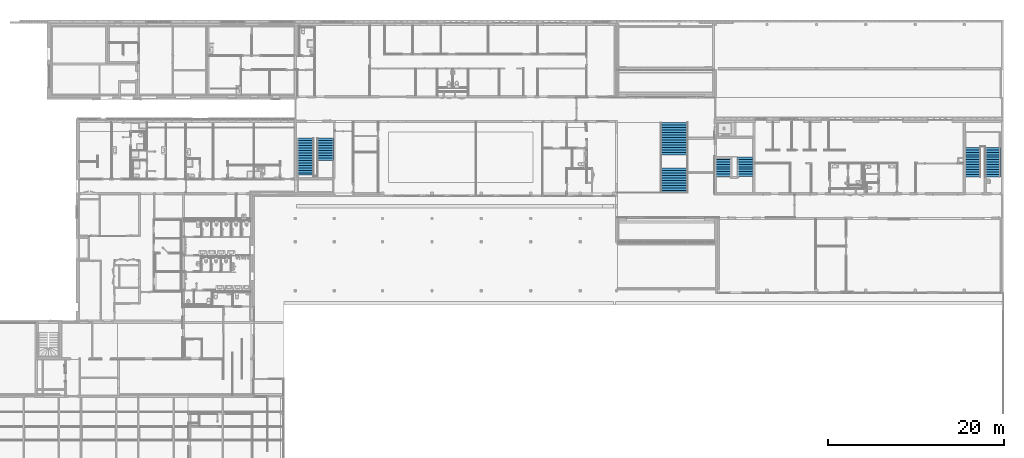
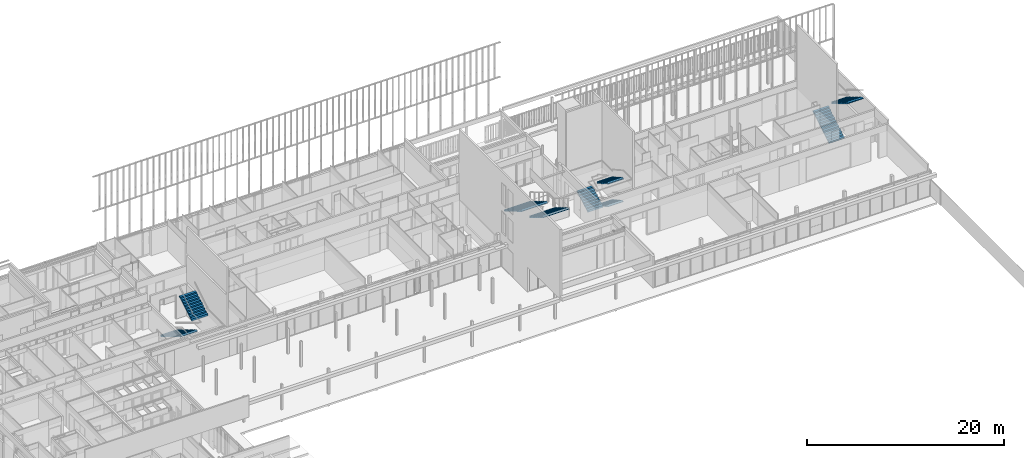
# One storey, part 228 of 240: 9 stair flights, 4 elements without a shape of their own.
"""IFC2X3 building model written with IfcOpenShell, lengths in centimetres."""

from ifc_helpers import new_model, entity, si_unit, converted_unit, derived_unit, direction, frame, origin, place, context, subcontext, project, spatial, faceted_brep, material, element, aggregate, save


model = new_model("IFC2X3")

# Units and contexts
model_context = context("Model", 3, precision=0.001, world=origin(), true_north=direction((6.12303176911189e-17, 1.0)))
body_context = subcontext(model_context, "Body", "Model", "MODEL_VIEW")
ifc_project = project(units=[si_unit("LENGTHUNIT", "METRE", prefix="CENTI"), si_unit("AREAUNIT", "SQUARE_METRE"), si_unit("VOLUMEUNIT", "CUBIC_METRE"), converted_unit("PLANEANGLEUNIT", "DEGREE", entity("IfcRatioMeasure", 0.0174532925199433), si_unit("PLANEANGLEUNIT", "RADIAN"), dimensions=[0, 0, 0, 0, 0, 0, 0]), si_unit("MASSUNIT", "GRAM", prefix="KILO"), derived_unit("MASSDENSITYUNIT", [(si_unit("MASSUNIT", "GRAM", prefix="KILO"), 1), (si_unit("LENGTHUNIT", "METRE"), -3)]), si_unit("TIMEUNIT", "SECOND"), si_unit("FREQUENCYUNIT", "HERTZ"), si_unit("THERMODYNAMICTEMPERATUREUNIT", "DEGREE_CELSIUS"), derived_unit("THERMALTRANSMITTANCEUNIT", [(si_unit("MASSUNIT", "GRAM", prefix="KILO"), 1), (si_unit("THERMODYNAMICTEMPERATUREUNIT", "KELVIN"), -1), (si_unit("TIMEUNIT", "SECOND"), -3)]), derived_unit("VOLUMETRICFLOWRATEUNIT", [(si_unit("LENGTHUNIT", "METRE"), 3), (si_unit("TIMEUNIT", "SECOND"), -1)]), si_unit("ELECTRICCURRENTUNIT", "AMPERE"), si_unit("ELECTRICVOLTAGEUNIT", "VOLT"), si_unit("POWERUNIT", "WATT"), si_unit("FORCEUNIT", "NEWTON", prefix="KILO"), si_unit("ILLUMINANCEUNIT", "LUX"), si_unit("LUMINOUSFLUXUNIT", "LUMEN"), si_unit("LUMINOUSINTENSITYUNIT", "CANDELA"), derived_unit("USERDEFINED", [(si_unit("MASSUNIT", "GRAM", prefix="KILO"), -1), (si_unit("LENGTHUNIT", "METRE"), -2), (si_unit("TIMEUNIT", "SECOND"), 3), (si_unit("LUMINOUSFLUXUNIT", "LUMEN"), 1)]), derived_unit("LINEARVELOCITYUNIT", [(si_unit("LENGTHUNIT", "METRE"), 1), (si_unit("TIMEUNIT", "SECOND"), -1)]), si_unit("PRESSUREUNIT", "PASCAL"), derived_unit("USERDEFINED", [(si_unit("LENGTHUNIT", "METRE"), -2), (si_unit("MASSUNIT", "GRAM", prefix="KILO"), 1), (si_unit("TIMEUNIT", "SECOND"), -2)])], contexts=[model_context])

# Site, building, storey
site_placement = place(None, frame((-2781.94577612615, 7442.24238424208, 0.0)))
site = spatial("IfcSite", under=ifc_project, at=site_placement, Name="Default", CompositionType="ELEMENT")
building_placement = place(site_placement, origin())
building = spatial("IfcBuilding", under=site, at=building_placement, CompositionType="ELEMENT")
storey_placement = place(building_placement, origin())
storey = spatial("IfcBuildingStorey", under=building, at=storey_placement, Name="N00 - COO", CompositionType="ELEMENT", Elevation=0.0)

# Stair, stair flights
stair_1_placement = place(building_placement, origin())
stair_1 = element("IfcStair", 1, at=stair_1_placement, inside=storey, Name="Escalier coulé sur place:Escalier", ObjectType="Escalier coulé sur place:Monobloc", ShapeType="NOTDEFINED")
ifc_material = material(Name="Maçonnerie - Béton")
stair_flight_1_placement = place(stair_1_placement, frame((-605.299882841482, -1730.07903364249, 0.0)))
stair_flight_1 = element("IfcStairFlight", 2, at=stair_flight_1_placement, material=ifc_material, Name="Escalier coulé sur place:Escalier:542505 Run 1", ObjectType="Volée monobloc:Profondeur de structure 80 mm", NumberOfRiser=13, NumberOfTreads=12, RiserHeight=0.553805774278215, TreadLength=0.918635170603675, context=body_context, shape_type="Brep", body=[
    faceted_brep([(180.0, 308.0, 236.32), (180.0, 336.0, 236.32), (0.0, 336.0, 236.32), (0.0, 308.0, 236.32), (180.0, 308.0, 226.978696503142), (180.0, 336.0, 210.098696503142), (180.0, 336.0, 219.44), (0.0, 336.0, 210.098696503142), (0.0, 308.0, 226.978696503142), (180.0, 280.0, 253.2), (180.0, 308.0, 253.2), (0.0, 308.0, 253.2), (0.0, 280.0, 253.2), (180.0, 280.0, 243.858696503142), (0.0, 280.0, 243.858696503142), (180.0, 252.0, 270.08), (180.0, 280.0, 270.08), (0.0, 280.0, 270.08), (0.0, 252.0, 270.08), (180.0, 252.0, 260.738696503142), (0.0, 252.0, 260.738696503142), (180.0, 224.0, 286.96), (180.0, 252.0, 286.96), (0.0, 252.0, 286.96), (0.0, 224.0, 286.96), (180.0, 224.0, 277.618696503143), (0.0, 224.0, 277.618696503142), (180.0, 196.0, 303.84), (180.0, 224.0, 303.84), (0.0, 224.0, 303.84), (0.0, 196.0, 303.84), (180.0, 196.0, 294.498696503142), (0.0, 196.0, 294.498696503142), (180.0, 168.0, 320.72), (180.0, 196.0, 320.72), (0.0, 196.0, 320.72), (0.0, 168.0, 320.72), (180.0, 168.0, 311.378696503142), (0.0, 168.0, 311.378696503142), (180.0, 140.0, 337.6), (180.0, 168.0, 337.6), (0.0, 168.0, 337.6), (0.0, 140.0, 337.6), (180.0, 140.0, 328.258696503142), (0.0, 140.0, 328.258696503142), (180.0, 112.0, 354.48), (180.0, 140.0, 354.48), (0.0, 140.0, 354.48), (0.0, 112.0, 354.48), (180.0, 112.0, 345.138696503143), (0.0, 112.0, 345.138696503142), (180.0, 84.0, 371.36), (180.0, 112.0, 371.36), (0.0, 112.0, 371.36), (0.0, 84.0, 371.36), (180.0, 84.0, 362.018696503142), (0.0, 84.0, 362.018696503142), (180.0, 56.0, 388.24), (180.0, 84.0, 388.24), (0.0, 84.0, 388.24), (0.0, 56.0, 388.24), (180.0, 56.0, 378.898696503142), (0.0, 56.0, 378.898696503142), (180.0, 28.0, 405.12), (180.0, 56.0, 405.12), (0.0, 56.0, 405.12), (0.0, 28.0, 405.12), (180.0, 28.0, 395.778696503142), (0.0, 28.0, 395.778696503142), (180.0, 0.0, 422.0), (180.0, 28.0, 422.0), (0.0, 28.0, 422.0), (0.0, 0.0, 422.0), (180.0, 0.0, 412.658696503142), (0.0, 0.0, 412.658696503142)], [[[0, 1, 2, 3]], [[1, 0, 4, 5, 6]], [[2, 1, 6, 5, 7]], [[3, 2, 7, 8]], [[9, 10, 11, 12]], [[10, 9, 13, 4, 0]], [[11, 10, 0, 3]], [[12, 11, 3, 8, 14]], [[15, 16, 17, 18]], [[16, 15, 19, 13, 9]], [[17, 16, 9, 12]], [[18, 17, 12, 14, 20]], [[21, 22, 23, 24]], [[22, 21, 25, 19, 15]], [[23, 22, 15, 18]], [[24, 23, 18, 20, 26]], [[27, 28, 29, 30]], [[28, 27, 31, 25, 21]], [[29, 28, 21, 24]], [[30, 29, 24, 26, 32]], [[33, 34, 35, 36]], [[34, 33, 37, 31, 27]], [[35, 34, 27, 30]], [[36, 35, 30, 32, 38]], [[39, 40, 41, 42]], [[40, 39, 43, 37, 33]], [[41, 40, 33, 36]], [[42, 41, 36, 38, 44]], [[45, 46, 47, 48]], [[46, 45, 49, 43, 39]], [[47, 46, 39, 42]], [[48, 47, 42, 44, 50]], [[51, 52, 53, 54]], [[52, 51, 55, 49, 45]], [[53, 52, 45, 48]], [[54, 53, 48, 50, 56]], [[57, 58, 59, 60]], [[58, 57, 61, 55, 51]], [[59, 58, 51, 54]], [[60, 59, 54, 56, 62]], [[63, 64, 65, 66]], [[64, 63, 67, 61, 57]], [[65, 64, 57, 60]], [[66, 65, 60, 62, 68]], [[69, 70, 71, 72]], [[70, 69, 73, 67, 63]], [[71, 70, 63, 66]], [[72, 71, 66, 68, 74]], [[69, 72, 74, 73]], [[5, 4, 13, 19, 25, 31, 37, 43, 49, 55, 61, 67, 73, 74, 68, 62, 56, 50, 44, 38, 32, 26, 20, 14, 8, 7]]]),
])
stair_flight_2_placement = place(stair_1_placement, frame((-825.299882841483, -1730.07903364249, 0.0)))
stair_flight_2 = element("IfcStairFlight", 3, at=stair_flight_2_placement, material=ifc_material, Name="Escalier coulé sur place:Escalier:542505 Run 2", ObjectType="Volée monobloc:Profondeur de structure 80 mm", NumberOfRiser=13, NumberOfTreads=12, RiserHeight=0.553805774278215, TreadLength=0.918635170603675, context=body_context, shape_type="Brep", body=[
    faceted_brep([(0.0, 28.0, 16.88), (0.0, 0.0, 16.88), (180.0, 0.0, 16.88), (180.0, 28.0, 16.88), (0.0, 28.0, 7.53869650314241), (0.0, 15.49505319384, 0.0), (0.0, 0.0, 0.0), (180.0, 0.0, 0.0), (180.0, 15.49505319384, 0.0), (180.0, 28.0, 7.53869650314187), (0.0, 56.0, 33.76), (0.0, 28.0, 33.76), (180.0, 28.0, 33.76), (180.0, 56.0, 33.76), (0.0, 56.0, 24.4186965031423), (180.0, 56.0, 24.4186965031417), (0.0, 84.0, 50.64), (0.0, 56.0, 50.64), (180.0, 56.0, 50.64), (180.0, 84.0, 50.64), (0.0, 84.0, 41.2986965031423), (180.0, 84.0, 41.2986965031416), (0.0, 112.0, 67.52), (0.0, 84.0, 67.52), (180.0, 84.0, 67.52), (180.0, 112.0, 67.52), (0.0, 112.0, 58.1786965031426), (180.0, 112.0, 58.178696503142), (0.0, 140.0, 84.4), (0.0, 112.0, 84.4), (180.0, 112.0, 84.4), (180.0, 140.0, 84.4), (0.0, 140.0, 75.0586965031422), (180.0, 140.0, 75.0586965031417), (0.0, 168.0, 101.28), (0.0, 140.0, 101.28), (180.0, 140.0, 101.28), (180.0, 168.0, 101.28), (0.0, 168.0, 91.9386965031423), (180.0, 168.0, 91.9386965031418), (0.0, 196.0, 118.16), (0.0, 168.0, 118.16), (180.0, 168.0, 118.16), (180.0, 196.0, 118.16), (0.0, 196.0, 108.818696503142), (180.0, 196.0, 108.818696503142), (0.0, 224.0, 135.04), (0.0, 196.0, 135.04), (180.0, 196.0, 135.04), (180.0, 224.0, 135.04), (0.0, 224.0, 125.698696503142), (180.0, 224.0, 125.698696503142), (0.0, 252.0, 151.92), (0.0, 224.0, 151.92), (180.0, 224.0, 151.92), (180.0, 252.0, 151.92), (0.0, 252.0, 142.578696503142), (180.0, 252.0, 142.578696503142), (0.0, 280.0, 168.8), (0.0, 252.0, 168.8), (180.0, 252.0, 168.8), (180.0, 280.0, 168.8), (0.0, 280.0, 159.458696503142), (180.0, 280.0, 159.458696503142), (0.0, 308.0, 185.68), (0.0, 280.0, 185.68), (180.0, 280.0, 185.68), (180.0, 308.0, 185.68), (0.0, 308.0, 176.338696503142), (180.0, 308.0, 176.338696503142), (0.0, 336.0, 202.56), (0.0, 308.0, 202.56), (180.0, 308.0, 202.56), (180.0, 336.0, 202.56), (0.0, 336.0, 193.218696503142), (180.0, 336.0, 193.218696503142), (180.0, 336.0, 199.44)], [[[0, 1, 2, 3]], [[1, 0, 4, 5, 6]], [[2, 1, 6, 7]], [[3, 2, 7, 8, 9]], [[10, 11, 12, 13]], [[11, 10, 14, 4, 0]], [[0, 3, 12, 11]], [[13, 12, 3, 9, 15]], [[16, 17, 18, 19]], [[17, 16, 20, 14, 10]], [[10, 13, 18, 17]], [[19, 18, 13, 15, 21]], [[22, 23, 24, 25]], [[23, 22, 26, 20, 16]], [[16, 19, 24, 23]], [[25, 24, 19, 21, 27]], [[28, 29, 30, 31]], [[29, 28, 32, 26, 22]], [[22, 25, 30, 29]], [[31, 30, 25, 27, 33]], [[34, 35, 36, 37]], [[35, 34, 38, 32, 28]], [[28, 31, 36, 35]], [[37, 36, 31, 33, 39]], [[40, 41, 42, 43]], [[41, 40, 44, 38, 34]], [[34, 37, 42, 41]], [[43, 42, 37, 39, 45]], [[46, 47, 48, 49]], [[47, 46, 50, 44, 40]], [[40, 43, 48, 47]], [[49, 48, 43, 45, 51]], [[52, 53, 54, 55]], [[53, 52, 56, 50, 46]], [[46, 49, 54, 53]], [[55, 54, 49, 51, 57]], [[58, 59, 60, 61]], [[59, 58, 62, 56, 52]], [[52, 55, 60, 59]], [[61, 60, 55, 57, 63]], [[64, 65, 66, 67]], [[65, 64, 68, 62, 58]], [[58, 61, 66, 65]], [[67, 66, 61, 63, 69]], [[70, 71, 72, 73]], [[71, 70, 74, 68, 64]], [[64, 67, 72, 71]], [[73, 72, 67, 69, 75, 76]], [[70, 73, 76, 75, 74]], [[7, 6, 5, 8]], [[8, 5, 4, 14, 20, 26, 32, 38, 44, 50, 56, 62, 68, 74, 75, 69, 63, 57, 51, 45, 39, 33, 27, 21, 15, 9]]]),
])
aggregate(stair_1, [stair_flight_1, stair_flight_2])

stair_2_placement = place(storey_placement, origin())
stair_2 = element("IfcStair", 4, at=stair_2_placement, inside=storey, Name="Escalier coulé sur place:Escalier", ObjectType="Escalier coulé sur place:Monobloc", ShapeType="NOTDEFINED")
stair_flight_3_placement = place(stair_2_placement, frame((-8394.19987766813, -1710.0790336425, 0.0)))
stair_flight_3 = element("IfcStairFlight", 5, at=stair_flight_3_placement, material=ifc_material, Name="Escalier coulé sur place:Escalier:549644 Run 1", ObjectType="Volée monobloc:Profondeur de structure 80 mm", NumberOfRiser=16, NumberOfTreads=15, RiserHeight=0.553805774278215, TreadLength=0.918635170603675, context=body_context, shape_type="Brep", body=[
    faceted_brep([(190.0, 392.0, 16.88), (190.0, 420.0, 16.88), (0.0, 420.0, 16.88), (0.0, 392.0, 16.88), (190.0, 392.0, 7.53869650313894), (190.0, 404.504946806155, 0.0), (190.0, 420.0, 0.0), (0.0, 420.0, 0.0), (0.0, 404.504946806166, 0.0), (0.0, 392.0, 7.53869650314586), (190.0, 364.0, 33.76), (190.0, 392.0, 33.76), (0.0, 392.0, 33.76), (0.0, 364.0, 33.76), (190.0, 364.0, 24.4186965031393), (0.0, 364.0, 24.4186965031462), (190.0, 336.0, 50.64), (190.0, 364.0, 50.64), (0.0, 364.0, 50.64), (0.0, 336.0, 50.64), (190.0, 336.0, 41.2986965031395), (0.0, 336.0, 41.2986965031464), (190.0, 308.0, 67.52), (190.0, 336.0, 67.52), (0.0, 336.0, 67.52), (0.0, 308.0, 67.52), (190.0, 308.0, 58.1786965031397), (0.0, 308.0, 58.1786965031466), (190.0, 280.0, 84.4), (190.0, 308.0, 84.4), (0.0, 308.0, 84.4), (0.0, 280.0, 84.4), (190.0, 280.0, 75.0586965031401), (0.0, 280.0, 75.0586965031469), (190.0, 252.0, 101.28), (190.0, 280.0, 101.28), (0.0, 280.0, 101.28), (0.0, 252.0, 101.28), (190.0, 252.0, 91.9386965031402), (0.0, 252.0, 91.9386965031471), (190.0, 224.0, 118.16), (190.0, 252.0, 118.16), (0.0, 252.0, 118.16), (0.0, 224.0, 118.16), (190.0, 224.0, 108.818696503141), (0.0, 224.0, 108.818696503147), (190.0, 196.0, 135.04), (190.0, 224.0, 135.04), (0.0, 224.0, 135.04), (0.0, 196.0, 135.04), (190.0, 196.0, 125.698696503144), (0.0, 196.0, 125.698696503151), (190.0, 168.0, 151.92), (190.0, 196.0, 151.92), (0.0, 196.0, 151.92), (0.0, 168.0, 151.92), (190.0, 168.0, 142.578696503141), (0.0, 168.0, 142.578696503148), (190.0, 140.0, 168.8), (190.0, 168.0, 168.8), (0.0, 168.0, 168.8), (0.0, 140.0, 168.8), (190.0, 140.0, 159.458696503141), (0.0, 140.0, 159.458696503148), (190.0, 112.0, 185.68), (190.0, 140.0, 185.68), (0.0, 140.0, 185.68), (0.0, 112.0, 185.68), (190.0, 112.0, 176.338696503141), (0.0, 112.0, 176.338696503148), (190.0, 84.0, 193.218696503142), (190.0, 56.0, 210.098696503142), (190.0, 28.0, 226.978696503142), (190.0, 0.0, 243.858696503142), (0.0, 0.0, 243.858696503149), (0.0, 28.0, 226.978696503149), (0.0, 56.0, 210.098696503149), (0.0, 84.0, 193.218696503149), (190.0, 84.0, 202.56), (190.0, 112.0, 202.56), (0.0, 112.0, 202.56), (0.0, 84.0, 202.56), (190.0, 56.0, 219.44), (190.0, 84.0, 219.44), (0.0, 84.0, 219.44), (0.0, 56.0, 219.44), (190.0, 28.0, 236.32), (190.0, 56.0, 236.32), (0.0, 56.0, 236.32), (0.0, 28.0, 236.32), (190.0, 0.0, 253.2), (190.0, 28.0, 253.2), (0.0, 28.0, 253.2), (0.0, 0.0, 253.2), (190.0, 0.0, 250.08)], [[[0, 1, 2, 3]], [[1, 0, 4, 5, 6]], [[2, 1, 6, 7]], [[3, 2, 7, 8, 9]], [[10, 11, 12, 13]], [[11, 10, 14, 4, 0]], [[0, 3, 12, 11]], [[13, 12, 3, 9, 15]], [[16, 17, 18, 19]], [[17, 16, 20, 14, 10]], [[10, 13, 18, 17]], [[19, 18, 13, 15, 21]], [[22, 23, 24, 25]], [[23, 22, 26, 20, 16]], [[16, 19, 24, 23]], [[25, 24, 19, 21, 27]], [[28, 29, 30, 31]], [[29, 28, 32, 26, 22]], [[22, 25, 30, 29]], [[31, 30, 25, 27, 33]], [[34, 35, 36, 37]], [[35, 34, 38, 32, 28]], [[28, 31, 36, 35]], [[37, 36, 31, 33, 39]], [[40, 41, 42, 43]], [[41, 40, 44, 38, 34]], [[34, 37, 42, 41]], [[43, 42, 37, 39, 45]], [[46, 47, 48, 49]], [[47, 46, 50, 44, 40]], [[40, 43, 48, 47]], [[49, 48, 43, 45, 51]], [[52, 53, 54, 55]], [[53, 52, 56, 50, 46]], [[46, 49, 54, 53]], [[55, 54, 49, 51, 57]], [[58, 59, 60, 61]], [[59, 58, 62, 56, 52]], [[52, 55, 60, 59]], [[61, 60, 55, 57, 63]], [[64, 65, 66, 67]], [[65, 64, 68, 62, 58]], [[58, 61, 66, 65]], [[67, 66, 61, 63, 69]], [[7, 6, 5, 8]], [[8, 5, 4, 14, 20, 26, 32, 38, 44, 50, 56, 62, 68, 70, 71, 72, 73, 74, 75, 76, 77, 69, 63, 57, 51, 45, 39, 33, 27, 21, 15, 9]], [[78, 79, 80, 81]], [[79, 78, 70, 68, 64]], [[64, 67, 80, 79]], [[81, 80, 67, 69, 77]], [[82, 83, 84, 85]], [[83, 82, 71, 70, 78]], [[78, 81, 84, 83]], [[85, 84, 81, 77, 76]], [[86, 87, 88, 89]], [[87, 86, 72, 71, 82]], [[82, 85, 88, 87]], [[89, 88, 85, 76, 75]], [[90, 91, 92, 93]], [[91, 90, 94, 73, 72, 86]], [[86, 89, 92, 91]], [[93, 92, 89, 75, 74]], [[90, 93, 74, 73, 94]]]),
])
stair_flight_4_placement = place(stair_2_placement, frame((-8176.49987760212, -1542.0, 0.0)))
stair_flight_4 = element("IfcStairFlight", 6, at=stair_flight_4_placement, material=ifc_material, Name="Escalier coulé sur place:Escalier:549644 Run 2", ObjectType="Volée monobloc:Profondeur de structure 80 mm", NumberOfRiser=10, NumberOfTreads=9, RiserHeight=0.553805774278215, TreadLength=0.918635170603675, context=body_context, shape_type="Brep", body=[
    faceted_brep([(0.0, 28.0, 286.96), (0.0, 0.0, 286.96), (190.0, 0.0, 286.96), (190.0, 28.0, 286.96), (0.0, 28.0, 277.618696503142), (0.0, 0.0, 260.738696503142), (0.0, 0.0, 270.08), (190.0, 0.0, 260.738696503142), (190.0, 0.0, 270.08), (190.0, 28.0, 277.618696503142), (0.0, 56.0, 303.84), (0.0, 28.0, 303.84), (190.0, 28.0, 303.84), (190.0, 56.0, 303.84), (0.0, 56.0, 294.498696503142), (190.0, 56.0, 294.498696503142), (0.0, 84.0, 320.72), (0.0, 56.0, 320.72), (190.0, 56.0, 320.72), (190.0, 84.0, 320.72), (0.0, 84.0, 311.378696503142), (190.0, 84.0, 311.378696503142), (0.0, 112.0, 337.6), (0.0, 84.0, 337.6), (190.0, 84.0, 337.6), (190.0, 112.0, 337.6), (0.0, 112.0, 328.258696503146), (190.0, 112.0, 328.258696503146), (0.0, 140.0, 354.48), (0.0, 112.0, 354.48), (190.0, 112.0, 354.48), (190.0, 140.0, 354.48), (0.0, 140.0, 345.138696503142), (190.0, 140.0, 345.138696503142), (0.0, 168.0, 371.36), (0.0, 140.0, 371.36), (190.0, 140.0, 371.36), (190.0, 168.0, 371.36), (0.0, 168.0, 362.018696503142), (190.0, 168.0, 362.018696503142), (0.0, 196.0, 388.24), (0.0, 168.0, 388.24), (190.0, 168.0, 388.24), (190.0, 196.0, 388.24), (0.0, 196.0, 378.898696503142), (190.0, 196.0, 378.898696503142), (0.0, 224.0, 405.12), (0.0, 196.0, 405.12), (190.0, 196.0, 405.12), (190.0, 224.0, 405.12), (0.0, 224.0, 395.778696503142), (190.0, 224.0, 395.778696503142), (0.0, 252.0, 422.0), (0.0, 224.0, 422.0), (190.0, 224.0, 422.0), (190.0, 252.0, 422.0), (0.0, 252.0, 412.658696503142), (190.0, 252.0, 412.658696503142)], [[[0, 1, 2, 3]], [[1, 0, 4, 5, 6]], [[2, 1, 6, 5, 7, 8]], [[3, 2, 8, 7, 9]], [[10, 11, 12, 13]], [[11, 10, 14, 4, 0]], [[12, 11, 0, 3]], [[13, 12, 3, 9, 15]], [[16, 17, 18, 19]], [[17, 16, 20, 14, 10]], [[18, 17, 10, 13]], [[19, 18, 13, 15, 21]], [[22, 23, 24, 25]], [[23, 22, 26, 20, 16]], [[24, 23, 16, 19]], [[25, 24, 19, 21, 27]], [[28, 29, 30, 31]], [[29, 28, 32, 26, 22]], [[30, 29, 22, 25]], [[31, 30, 25, 27, 33]], [[34, 35, 36, 37]], [[35, 34, 38, 32, 28]], [[36, 35, 28, 31]], [[37, 36, 31, 33, 39]], [[40, 41, 42, 43]], [[41, 40, 44, 38, 34]], [[42, 41, 34, 37]], [[43, 42, 37, 39, 45]], [[46, 47, 48, 49]], [[47, 46, 50, 44, 40]], [[48, 47, 40, 43]], [[49, 48, 43, 45, 51]], [[52, 53, 54, 55]], [[53, 52, 56, 50, 46]], [[54, 53, 46, 49]], [[55, 54, 49, 51, 57]], [[52, 55, 57, 56]], [[5, 4, 14, 20, 26, 32, 38, 44, 50, 56, 57, 51, 45, 39, 33, 27, 21, 15, 9, 7]]]),
])
aggregate(stair_2, [stair_flight_3, stair_flight_4])

stair_3_placement = place(storey_placement, origin())
stair_3 = element("IfcStair", 7, at=stair_3_placement, inside=storey, Name="Escalier coulé sur place:Escalier", ObjectType="Escalier coulé sur place:Monobloc", ShapeType="NOTDEFINED")
stair_flight_5_placement = place(stair_3_placement, frame((-4274.99987968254, -1478.0, 0.0)))
stair_flight_5 = element("IfcStairFlight", 8, at=stair_flight_5_placement, material=ifc_material, Name="Escalier coulé sur place:Escalier:1812443 Run 1", ObjectType="Volée monobloc:Profondeur de structure 80 mm", NumberOfRiser=14, NumberOfTreads=13, RiserHeight=0.553805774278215, TreadLength=0.918635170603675, context=body_context, shape_type="Brep", body=[
    faceted_brep([(305.0, 336.0, 16.88), (305.0, 364.0, 16.88), (0.0, 364.0, 16.88), (0.0, 336.0, 16.88), (305.0, 336.0, 7.53869650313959), (305.0, 348.504946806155, 0.0), (305.0, 364.0, 0.0), (0.0, 364.0, 0.0), (0.0, 348.504946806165, 0.0), (0.0, 336.0, 7.53869650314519), (305.0, 308.0, 33.76), (305.0, 336.0, 33.76), (0.0, 336.0, 33.76), (0.0, 308.0, 33.76), (305.0, 308.0, 24.4186965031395), (0.0, 308.0, 24.4186965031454), (305.0, 280.0, 50.64), (305.0, 308.0, 50.64), (0.0, 308.0, 50.64), (0.0, 280.0, 50.64), (305.0, 280.0, 41.2986965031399), (0.0, 280.0, 41.2986965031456), (305.0, 252.0, 67.52), (305.0, 280.0, 67.52), (0.0, 280.0, 67.52), (0.0, 252.0, 67.52), (305.0, 252.0, 58.1786965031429), (0.0, 252.0, 58.1786965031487), (305.0, 224.0, 84.4), (305.0, 252.0, 84.4), (0.0, 252.0, 84.4), (0.0, 224.0, 84.4), (305.0, 224.0, 75.0586965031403), (0.0, 224.0, 75.058696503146), (305.0, 196.0, 101.28), (305.0, 224.0, 101.28), (0.0, 224.0, 101.28), (0.0, 196.0, 101.28), (305.0, 196.0, 91.9386965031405), (0.0, 196.0, 91.9386965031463), (305.0, 168.0, 118.16), (305.0, 196.0, 118.16), (0.0, 196.0, 118.16), (0.0, 168.0, 118.16), (305.0, 168.0, 108.818696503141), (0.0, 168.0, 108.818696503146), (305.0, 140.0, 135.04), (305.0, 168.0, 135.04), (0.0, 168.0, 135.04), (0.0, 140.0, 135.04), (305.0, 140.0, 125.698696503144), (0.0, 140.0, 125.69869650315), (305.0, 112.0, 151.92), (305.0, 140.0, 151.92), (0.0, 140.0, 151.92), (0.0, 112.0, 151.92), (305.0, 112.0, 142.578696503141), (0.0, 112.0, 142.578696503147), (305.0, 84.0, 168.8), (305.0, 112.0, 168.8), (0.0, 112.0, 168.8), (0.0, 84.0, 168.8), (305.0, 84.0, 159.458696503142), (0.0, 84.0, 159.458696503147), (305.0, 56.0, 185.68), (305.0, 84.0, 185.68), (0.0, 84.0, 185.68), (0.0, 56.0, 185.68), (305.0, 56.0, 176.338696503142), (0.0, 56.0, 176.338696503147), (305.0, 28.0, 193.218696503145), (305.0, 0.0, 210.098696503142), (0.0, 0.0, 210.098696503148), (0.0, 28.0, 193.218696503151), (305.0, 28.0, 202.56), (305.0, 56.0, 202.56), (0.0, 56.0, 202.56), (0.0, 28.0, 202.56), (305.0, 0.0, 219.44), (305.0, 28.0, 219.44), (0.0, 28.0, 219.44), (0.0, 0.0, 219.44)], [[[0, 1, 2, 3]], [[1, 0, 4, 5, 6]], [[2, 1, 6, 7]], [[3, 2, 7, 8, 9]], [[10, 11, 12, 13]], [[11, 10, 14, 4, 0]], [[0, 3, 12, 11]], [[13, 12, 3, 9, 15]], [[16, 17, 18, 19]], [[17, 16, 20, 14, 10]], [[10, 13, 18, 17]], [[19, 18, 13, 15, 21]], [[22, 23, 24, 25]], [[23, 22, 26, 20, 16]], [[16, 19, 24, 23]], [[25, 24, 19, 21, 27]], [[28, 29, 30, 31]], [[29, 28, 32, 26, 22]], [[22, 25, 30, 29]], [[31, 30, 25, 27, 33]], [[34, 35, 36, 37]], [[35, 34, 38, 32, 28]], [[28, 31, 36, 35]], [[37, 36, 31, 33, 39]], [[40, 41, 42, 43]], [[41, 40, 44, 38, 34]], [[34, 37, 42, 41]], [[43, 42, 37, 39, 45]], [[46, 47, 48, 49]], [[47, 46, 50, 44, 40]], [[40, 43, 48, 47]], [[49, 48, 43, 45, 51]], [[52, 53, 54, 55]], [[53, 52, 56, 50, 46]], [[46, 49, 54, 53]], [[55, 54, 49, 51, 57]], [[58, 59, 60, 61]], [[59, 58, 62, 56, 52]], [[52, 55, 60, 59]], [[61, 60, 55, 57, 63]], [[64, 65, 66, 67]], [[65, 64, 68, 62, 58]], [[58, 61, 66, 65]], [[67, 66, 61, 63, 69]], [[7, 6, 5, 8]], [[8, 5, 4, 14, 20, 26, 32, 38, 44, 50, 56, 62, 68, 70, 71, 72, 73, 69, 63, 57, 51, 45, 39, 33, 27, 21, 15, 9]], [[74, 75, 76, 77]], [[75, 74, 70, 68, 64]], [[64, 67, 76, 75]], [[77, 76, 67, 69, 73]], [[78, 79, 80, 81]], [[79, 78, 71, 70, 74]], [[74, 77, 80, 79]], [[81, 80, 77, 73, 72]], [[78, 81, 72, 71]]]),
])
stair_flight_6_placement = place(stair_3_placement, frame((-4274.99987968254, -1910.07903364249, 0.0)))
stair_flight_6 = element("IfcStairFlight", 9, at=stair_flight_6_placement, material=ifc_material, Name="Escalier coulé sur place:Escalier:1812443 Run 2", ObjectType="Volée monobloc:Profondeur de structure 80 mm", NumberOfRiser=11, NumberOfTreads=10, RiserHeight=0.553805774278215, TreadLength=0.918635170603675, context=body_context, shape_type="Brep", body=[
    faceted_brep([(305.0, 252.0, 253.2), (305.0, 280.0, 253.2), (0.0, 280.0, 253.2), (0.0, 252.0, 253.2), (305.0, 252.0, 243.858696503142), (305.0, 280.0, 226.978696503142), (305.0, 280.0, 236.32), (0.0, 280.0, 226.978696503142), (0.0, 280.0, 236.32), (0.0, 252.0, 243.858696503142), (305.0, 224.0, 270.08), (305.0, 252.0, 270.08), (0.0, 252.0, 270.08), (0.0, 224.0, 270.08), (305.0, 224.0, 260.738696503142), (0.0, 224.0, 260.738696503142), (305.0, 196.0, 286.96), (305.0, 224.0, 286.96), (0.0, 224.0, 286.96), (0.0, 196.0, 286.96), (305.0, 196.0, 277.618696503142), (0.0, 196.0, 277.618696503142), (305.0, 168.0, 303.84), (305.0, 196.0, 303.84), (0.0, 196.0, 303.84), (0.0, 168.0, 303.84), (305.0, 168.0, 294.498696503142), (0.0, 168.0, 294.498696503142), (305.0, 140.0, 320.72), (305.0, 168.0, 320.72), (0.0, 168.0, 320.72), (0.0, 140.0, 320.72), (305.0, 140.0, 311.378696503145), (0.0, 140.0, 311.378696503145), (305.0, 112.0, 337.6), (305.0, 140.0, 337.6), (0.0, 140.0, 337.6), (0.0, 112.0, 337.6), (305.0, 112.0, 328.258696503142), (0.0, 112.0, 328.258696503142), (305.0, 84.0, 354.48), (305.0, 112.0, 354.48), (0.0, 112.0, 354.48), (0.0, 84.0, 354.48), (305.0, 84.0, 345.138696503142), (0.0, 84.0, 345.138696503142), (305.0, 56.0, 371.36), (305.0, 84.0, 371.36), (0.0, 84.0, 371.36), (0.0, 56.0, 371.36), (305.0, 56.0, 362.018696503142), (0.0, 56.0, 362.018696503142), (305.0, 28.0, 388.24), (305.0, 56.0, 388.24), (0.0, 56.0, 388.24), (0.0, 28.0, 388.24), (305.0, 28.0, 378.898696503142), (0.0, 28.0, 378.898696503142), (305.0, 0.0, 405.12), (305.0, 28.0, 405.12), (0.0, 28.0, 405.12), (0.0, 0.0, 405.12), (305.0, 0.0, 395.778696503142), (0.0, 0.0, 395.778696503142)], [[[0, 1, 2, 3]], [[1, 0, 4, 5, 6]], [[2, 1, 6, 5, 7, 8]], [[3, 2, 8, 7, 9]], [[10, 11, 12, 13]], [[11, 10, 14, 4, 0]], [[12, 11, 0, 3]], [[13, 12, 3, 9, 15]], [[16, 17, 18, 19]], [[17, 16, 20, 14, 10]], [[18, 17, 10, 13]], [[19, 18, 13, 15, 21]], [[22, 23, 24, 25]], [[23, 22, 26, 20, 16]], [[24, 23, 16, 19]], [[25, 24, 19, 21, 27]], [[28, 29, 30, 31]], [[29, 28, 32, 26, 22]], [[30, 29, 22, 25]], [[31, 30, 25, 27, 33]], [[34, 35, 36, 37]], [[35, 34, 38, 32, 28]], [[36, 35, 28, 31]], [[37, 36, 31, 33, 39]], [[40, 41, 42, 43]], [[41, 40, 44, 38, 34]], [[42, 41, 34, 37]], [[43, 42, 37, 39, 45]], [[46, 47, 48, 49]], [[47, 46, 50, 44, 40]], [[48, 47, 40, 43]], [[49, 48, 43, 45, 51]], [[52, 53, 54, 55]], [[53, 52, 56, 50, 46]], [[54, 53, 46, 49]], [[55, 54, 49, 51, 57]], [[58, 59, 60, 61]], [[59, 58, 62, 56, 52]], [[60, 59, 52, 55]], [[61, 60, 55, 57, 63]], [[58, 61, 63, 62]], [[5, 4, 14, 20, 26, 32, 38, 44, 50, 56, 62, 63, 57, 51, 45, 39, 33, 27, 21, 15, 9, 7]]]),
])
aggregate(stair_3, [stair_flight_5, stair_flight_6])

stair_4_placement = place(building_placement, origin())
stair_4 = element("IfcStair", 10, at=stair_4_placement, inside=storey, Name="Escalier coulé sur place:Escalier", ObjectType="Escalier coulé sur place:Monobloc", ShapeType="NOTDEFINED")
stair_flight_7_placement = place(stair_4_placement, frame((-3409.29988284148, -1726.07903364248, 0.0)))
stair_flight_7 = element("IfcStairFlight", 11, at=stair_flight_7_placement, material=ifc_material, Name="Escalier coulé sur place:Escalier:1870163 Run 1", ObjectType="Volée monobloc:Profondeur de structure 80 mm", NumberOfRiser=9, NumberOfTreads=8, RiserHeight=0.512783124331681, TreadLength=0.918635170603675, context=body_context, shape_type="Brep", body=[
    faceted_brep([(180.0, 196.0, 15.6296296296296), (180.0, 224.0, 15.6296296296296), (0.0, 224.0, 15.6296296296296), (0.0, 196.0, 15.6296296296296), (180.0, 196.0, 6.46766155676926), (180.0, 207.586616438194, 0.0), (180.0, 224.0, 0.0), (0.0, 224.0, 0.0), (0.0, 207.586616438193, 0.0), (0.0, 196.0, 6.46766155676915), (180.0, 168.0, 31.2592592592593), (180.0, 196.0, 31.2592592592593), (0.0, 196.0, 31.2592592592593), (0.0, 168.0, 31.2592592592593), (180.0, 168.0, 22.0972911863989), (0.0, 168.0, 22.0972911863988), (180.0, 140.0, 46.8888888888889), (180.0, 168.0, 46.8888888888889), (0.0, 168.0, 46.8888888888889), (0.0, 140.0, 46.8888888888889), (180.0, 140.0, 37.7269208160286), (0.0, 140.0, 37.7269208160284), (180.0, 112.0, 62.5185185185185), (180.0, 140.0, 62.5185185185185), (0.0, 140.0, 62.5185185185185), (0.0, 112.0, 62.5185185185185), (180.0, 112.0, 53.3565504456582), (0.0, 112.0, 53.356550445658), (180.0, 84.0, 78.1481481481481), (180.0, 112.0, 78.1481481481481), (0.0, 112.0, 78.1481481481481), (0.0, 84.0, 78.1481481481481), (180.0, 84.0, 68.9861800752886), (0.0, 84.0, 68.9861800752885), (180.0, 56.0, 93.7777777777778), (180.0, 84.0, 93.7777777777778), (0.0, 84.0, 93.7777777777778), (0.0, 56.0, 93.7777777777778), (180.0, 56.0, 84.6158097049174), (0.0, 56.0, 84.6158097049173), (180.0, 28.0, 109.407407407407), (180.0, 56.0, 109.407407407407), (0.0, 56.0, 109.407407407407), (0.0, 28.0, 109.407407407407), (180.0, 28.0, 100.245439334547), (0.0, 28.0, 100.245439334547), (180.0, 0.0, 125.037037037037), (180.0, 28.0, 125.037037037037), (0.0, 28.0, 125.037037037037), (0.0, 0.0, 125.037037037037), (180.0, 0.0, 115.875068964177), (0.0, 0.0, 115.875068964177), (0.0, 0.0, 120.666666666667)], [[[0, 1, 2, 3]], [[1, 0, 4, 5, 6]], [[2, 1, 6, 7]], [[3, 2, 7, 8, 9]], [[10, 11, 12, 13]], [[11, 10, 14, 4, 0]], [[0, 3, 12, 11]], [[13, 12, 3, 9, 15]], [[16, 17, 18, 19]], [[17, 16, 20, 14, 10]], [[10, 13, 18, 17]], [[19, 18, 13, 15, 21]], [[22, 23, 24, 25]], [[23, 22, 26, 20, 16]], [[16, 19, 24, 23]], [[25, 24, 19, 21, 27]], [[28, 29, 30, 31]], [[29, 28, 32, 26, 22]], [[22, 25, 30, 29]], [[31, 30, 25, 27, 33]], [[34, 35, 36, 37]], [[35, 34, 38, 32, 28]], [[28, 31, 36, 35]], [[37, 36, 31, 33, 39]], [[40, 41, 42, 43]], [[41, 40, 44, 38, 34]], [[34, 37, 42, 41]], [[43, 42, 37, 39, 45]], [[46, 47, 48, 49]], [[47, 46, 50, 44, 40]], [[40, 43, 48, 47]], [[49, 48, 43, 45, 51, 52]], [[46, 49, 52, 51, 50]], [[7, 6, 5, 8]], [[8, 5, 4, 14, 20, 26, 32, 38, 44, 50, 51, 45, 39, 33, 27, 21, 15, 9]]]),
])
stair_flight_8_placement = place(stair_4_placement, frame((-3647.99987968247, -1726.07903364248, 0.0)))
stair_flight_8 = element("IfcStairFlight", 12, at=stair_flight_8_placement, material=ifc_material, Name="Escalier coulé sur place:Escalier:1870163 Run 2", ObjectType="Volée monobloc:Profondeur de structure 80 mm", NumberOfRiser=9, NumberOfTreads=8, RiserHeight=0.512783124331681, TreadLength=0.918635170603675, context=body_context, shape_type="Brep", body=[
    faceted_brep([(0.0, 28.0, 156.296296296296), (0.0, 0.0, 156.296296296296), (180.0, 0.0, 156.296296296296), (180.0, 28.0, 156.296296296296), (0.0, 28.0, 147.134328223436), (0.0, 0.0, 131.504698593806), (0.0, 0.0, 140.666666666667), (180.0, 0.0, 131.504698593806), (180.0, 28.0, 147.134328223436), (0.0, 56.0, 171.925925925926), (0.0, 28.0, 171.925925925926), (180.0, 28.0, 171.925925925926), (180.0, 56.0, 171.925925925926), (0.0, 56.0, 162.763957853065), (180.0, 56.0, 162.763957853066), (0.0, 84.0, 187.555555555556), (0.0, 56.0, 187.555555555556), (180.0, 56.0, 187.555555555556), (180.0, 84.0, 187.555555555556), (0.0, 84.0, 178.393587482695), (180.0, 84.0, 178.393587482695), (0.0, 112.0, 203.185185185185), (0.0, 84.0, 203.185185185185), (180.0, 84.0, 203.185185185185), (180.0, 112.0, 203.185185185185), (0.0, 112.0, 194.023217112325), (180.0, 112.0, 194.023217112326), (0.0, 140.0, 218.814814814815), (0.0, 112.0, 218.814814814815), (180.0, 112.0, 218.814814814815), (180.0, 140.0, 218.814814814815), (0.0, 140.0, 209.652846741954), (180.0, 140.0, 209.652846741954), (0.0, 168.0, 234.444444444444), (0.0, 140.0, 234.444444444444), (180.0, 140.0, 234.444444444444), (180.0, 168.0, 234.444444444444), (0.0, 168.0, 225.282476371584), (180.0, 168.0, 225.282476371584), (0.0, 196.0, 250.074074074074), (0.0, 168.0, 250.074074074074), (180.0, 168.0, 250.074074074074), (180.0, 196.0, 250.074074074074), (0.0, 196.0, 240.912106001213), (180.0, 196.0, 240.912106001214), (0.0, 224.0, 265.703703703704), (0.0, 196.0, 265.703703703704), (180.0, 196.0, 265.703703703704), (180.0, 224.0, 265.703703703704), (0.0, 224.0, 256.541735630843), (180.0, 224.0, 256.541735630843), (180.0, 224.0, 261.333333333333)], [[[0, 1, 2, 3]], [[1, 0, 4, 5, 6]], [[2, 1, 6, 5, 7]], [[3, 2, 7, 8]], [[9, 10, 11, 12]], [[10, 9, 13, 4, 0]], [[11, 10, 0, 3]], [[12, 11, 3, 8, 14]], [[15, 16, 17, 18]], [[16, 15, 19, 13, 9]], [[17, 16, 9, 12]], [[18, 17, 12, 14, 20]], [[21, 22, 23, 24]], [[22, 21, 25, 19, 15]], [[23, 22, 15, 18]], [[24, 23, 18, 20, 26]], [[27, 28, 29, 30]], [[28, 27, 31, 25, 21]], [[29, 28, 21, 24]], [[30, 29, 24, 26, 32]], [[33, 34, 35, 36]], [[34, 33, 37, 31, 27]], [[35, 34, 27, 30]], [[36, 35, 30, 32, 38]], [[39, 40, 41, 42]], [[40, 39, 43, 37, 33]], [[41, 40, 33, 36]], [[42, 41, 36, 38, 44]], [[45, 46, 47, 48]], [[46, 45, 49, 43, 39]], [[47, 46, 39, 42]], [[48, 47, 42, 44, 50, 51]], [[45, 48, 51, 50, 49]], [[5, 4, 13, 19, 25, 31, 37, 43, 49, 50, 44, 38, 32, 26, 20, 14, 8, 7]]]),
])
stair_flight_9_placement = place(stair_4_placement, frame((-3409.29988284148, -1726.07903364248, 0.0)))
stair_flight_9 = element("IfcStairFlight", 13, at=stair_flight_9_placement, material=ifc_material, Name="Escalier coulé sur place:Escalier:1870163 Run 3", ObjectType="Volée monobloc:Profondeur de structure 80 mm", NumberOfRiser=9, NumberOfTreads=8, RiserHeight=0.512783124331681, TreadLength=0.918635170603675, context=body_context, shape_type="Brep", body=[
    faceted_brep([(180.0, 196.0, 296.962962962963), (180.0, 224.0, 296.962962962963), (0.0, 224.0, 296.962962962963), (0.0, 196.0, 296.962962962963), (180.0, 196.0, 287.800994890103), (180.0, 224.0, 272.171365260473), (180.0, 224.0, 281.333333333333), (0.0, 224.0, 272.171365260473), (0.0, 196.0, 287.800994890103), (180.0, 168.0, 312.592592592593), (180.0, 196.0, 312.592592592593), (0.0, 196.0, 312.592592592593), (0.0, 168.0, 312.592592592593), (180.0, 168.0, 303.430624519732), (0.0, 168.0, 303.430624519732), (180.0, 140.0, 328.222222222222), (180.0, 168.0, 328.222222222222), (0.0, 168.0, 328.222222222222), (0.0, 140.0, 328.222222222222), (180.0, 140.0, 319.060254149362), (0.0, 140.0, 319.060254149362), (180.0, 112.0, 343.851851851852), (180.0, 140.0, 343.851851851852), (0.0, 140.0, 343.851851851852), (0.0, 112.0, 343.851851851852), (180.0, 112.0, 334.689883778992), (0.0, 112.0, 334.689883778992), (180.0, 84.0, 359.481481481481), (180.0, 112.0, 359.481481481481), (0.0, 112.0, 359.481481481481), (0.0, 84.0, 359.481481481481), (180.0, 84.0, 350.319513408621), (0.0, 84.0, 350.319513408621), (180.0, 56.0, 375.111111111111), (180.0, 84.0, 375.111111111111), (0.0, 84.0, 375.111111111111), (0.0, 56.0, 375.111111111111), (180.0, 56.0, 365.949143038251), (0.0, 56.0, 365.949143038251), (180.0, 28.0, 390.740740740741), (180.0, 56.0, 390.740740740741), (0.0, 56.0, 390.740740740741), (0.0, 28.0, 390.740740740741), (180.0, 28.0, 381.578772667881), (0.0, 28.0, 381.57877266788), (180.0, 0.0, 406.37037037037), (180.0, 28.0, 406.37037037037), (0.0, 28.0, 406.37037037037), (0.0, 0.0, 406.37037037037), (180.0, 0.0, 397.20840229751), (0.0, 0.0, 397.20840229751), (0.0, 0.0, 402.0)], [[[0, 1, 2, 3]], [[1, 0, 4, 5, 6]], [[2, 1, 6, 5, 7]], [[3, 2, 7, 8]], [[9, 10, 11, 12]], [[10, 9, 13, 4, 0]], [[11, 10, 0, 3]], [[12, 11, 3, 8, 14]], [[15, 16, 17, 18]], [[16, 15, 19, 13, 9]], [[17, 16, 9, 12]], [[18, 17, 12, 14, 20]], [[21, 22, 23, 24]], [[22, 21, 25, 19, 15]], [[23, 22, 15, 18]], [[24, 23, 18, 20, 26]], [[27, 28, 29, 30]], [[28, 27, 31, 25, 21]], [[29, 28, 21, 24]], [[30, 29, 24, 26, 32]], [[33, 34, 35, 36]], [[34, 33, 37, 31, 27]], [[35, 34, 27, 30]], [[36, 35, 30, 32, 38]], [[39, 40, 41, 42]], [[40, 39, 43, 37, 33]], [[41, 40, 33, 36]], [[42, 41, 36, 38, 44]], [[45, 46, 47, 48]], [[46, 45, 49, 43, 39]], [[47, 46, 39, 42]], [[48, 47, 42, 44, 50, 51]], [[45, 48, 51, 50, 49]], [[5, 4, 13, 19, 25, 31, 37, 43, 49, 50, 44, 38, 32, 26, 20, 14, 8, 7]]]),
])
aggregate(stair_4, [stair_flight_7, stair_flight_8, stair_flight_9])

save(model, "model.ifc")
